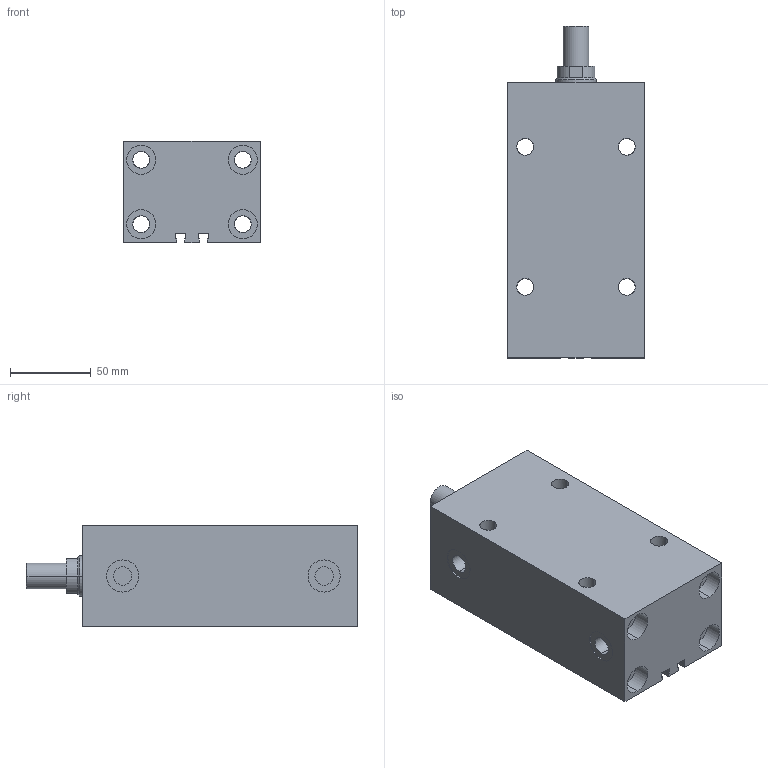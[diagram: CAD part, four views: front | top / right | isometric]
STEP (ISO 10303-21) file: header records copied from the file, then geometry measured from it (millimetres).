
FILE_DESCRIPTION (( 'STEP AP203' ), '1' );
FILE_NAME ('GERMA_Blockzylinder_700-040-100-A.STEP', '2016-07-23T10:09:47', ( '' ), ( '' ), 'SwSTEP 2.0', 'SolidWorks 2015', '' );
FILE_SCHEMA (( 'CONFIG_CONTROL_DESIGN' ));
Length unit declared in the file: millimetre
Products named in the file (3): Kolben_MT 70x-040_Kolben_MT DU.40-Hub100-AG; GERMA_Blockzylinder_700-040-100-A; GH-700-040_GH-700-040-100
Assembly tree (2 placements, depth 2):
  GERMA_Blockzylinder_700-040-100-A
    GH-700-040_GH-700-040-100
    Kolben_MT 70x-040_Kolben_MT DU.40-Hub100-AG
Bounding box: 85 x 206 x 63 mm (x, y, z)
Volume: 744584.4 mm3; surface area: 132188.5 mm2
Topology: 2 solids, 2 shells, 152 faces, 372 edges, 225 vertices
Faces by surface type: cylinder 93, plane 47, cone 12
Entity records: 4766 total; most frequent: CARTESIAN_POINT 942, DIRECTION 751, ORIENTED_EDGE 736, EDGE_CURVE 368, AXIS2_PLACEMENT_3D 290, VERTEX_POINT 225, EDGE_LOOP 189, VECTOR 171
